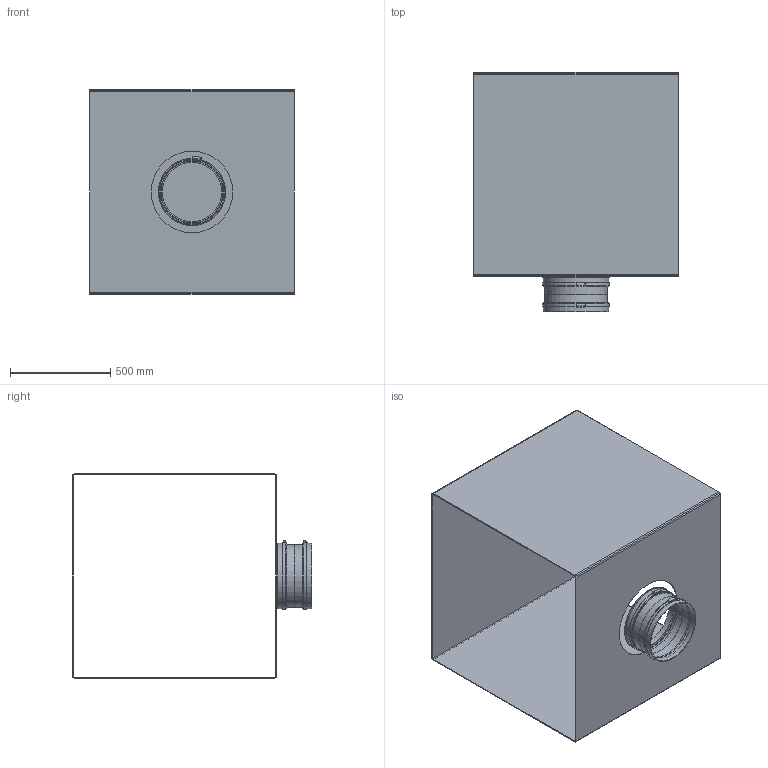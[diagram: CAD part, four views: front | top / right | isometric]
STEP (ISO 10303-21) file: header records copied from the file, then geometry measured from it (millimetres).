
FILE_DESCRIPTION(/* description */ (''),/* implementation_level */ '2;1');
FILE_NAME(/* name */ 'Z:\Output\GBD 710_6_6_DoubleRadial-05525-004.stp',/* time_stamp */ '2017-05-09T00:04:10+02:00',/* author */ ('jayeshpanchal'),/* organization */ (''),/* preprocessor_version */ 'ST-DEVELOPER v16.5',/* originating_system */ 'Autodesk Inventor 2017',/* authorisation */ '');
FILE_SCHEMA (('AUTOMOTIVE_DESIGN { 1 0 10303 214 3 1 1 }'));
Length unit declared in the file: millimetre
Products named in the file (1): GB-3
Bounding box: 1020 x 1195 x 1020 mm (x, y, z)
Volume: 20929454.5 mm3; surface area: 8564683.2 mm2
Topology: 5 solids, 5 shells, 57 faces, 115 edges, 73 vertices
Faces by surface type: plane 29, cylinder 22, cone 4, torus 2
Full cylindrical faces by diameter (mm): 295 x1, 315 x1, 316 x4, 326 x4, 332 x2, 335 x1, 408 x1
Entity records: 1442 total; most frequent: DIRECTION 264, CARTESIAN_POINT 226, ORIENTED_EDGE 196, AXIS2_PLACEMENT_3D 110, EDGE_CURVE 96, EDGE_LOOP 92, VERTEX_POINT 72, FACE_OUTER_BOUND 57
